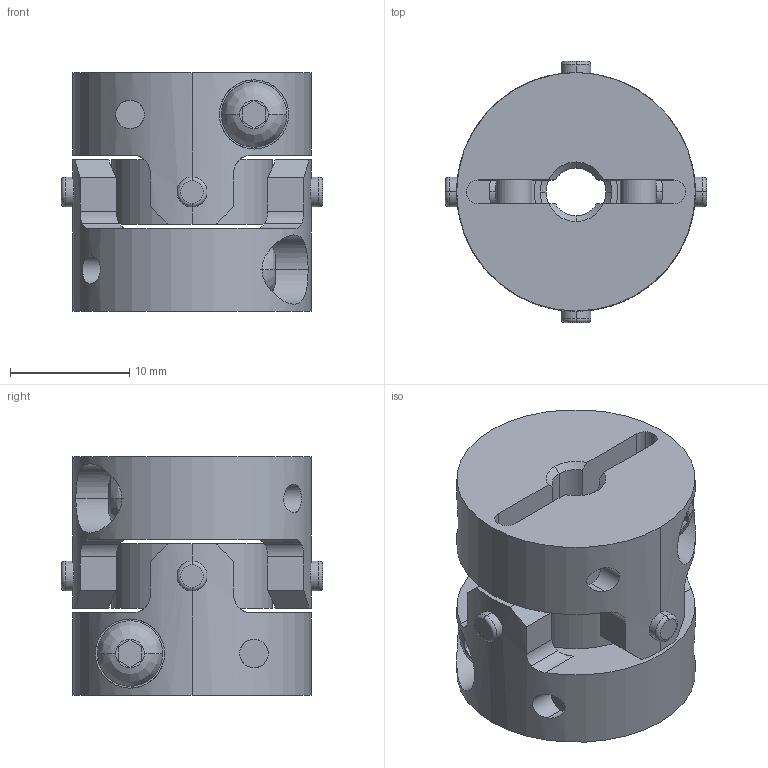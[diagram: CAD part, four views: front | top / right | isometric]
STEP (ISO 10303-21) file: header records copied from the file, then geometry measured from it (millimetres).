
FILE_DESCRIPTION((''),'2;1');
FILE_NAME('UA-20C-4×5.stp','2013-05-16T09:01:07',(''),(''),'AutoCAD STEP 2000i','AutoCAD 2000i',', , ');
FILE_SCHEMA(('CONFIG_CONTROL_DESIGN'));
Length unit declared in the file: millimetre
Products named in the file (6): UA-20C-4×4; 忣兜1; UA-2002-D04-1; BTN-M3; UA-2002-D04; UA20-SEN
Assembly tree (6 placements, depth 3):
  UA-20C-4×4
    忣兜1
    UA-2002-D04-1
      BTN-M3
    UA-2002-D04
      BTN-M3
    UA20-SEN
Bounding box: 21.89 x 21.89 x 20 mm (x, y, z)
Volume: 4572.1 mm3; surface area: 3877.9 mm2
Topology: 1 solids, 1 shells, 206 faces, 554 edges, 364 vertices
Faces by surface type: cylinder 96, plane 78, cone 16, bspline 8, torus 8
Entity records: 8011 total; most frequent: CARTESIAN_POINT 2695, ORIENTED_EDGE 1108, DIRECTION 1064, EDGE_CURVE 554, AXIS2_PLACEMENT_3D 409, VERTEX_POINT 364, VECTOR 246, LINE 246
